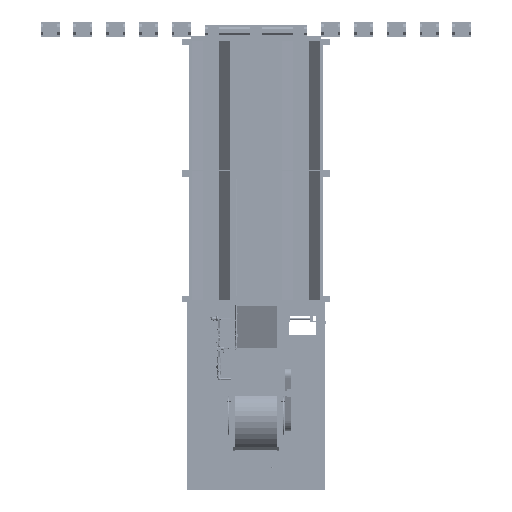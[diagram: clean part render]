
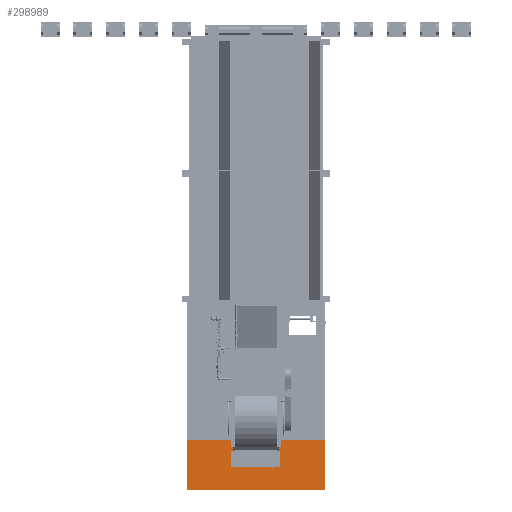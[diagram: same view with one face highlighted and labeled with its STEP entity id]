
A CAD part, front view. The second image highlights one B-rep face of the part: STEP entity #298989.
In plain terms, the highlighted planar face has unit normal (0, -1, 0) as drawn and (1, 0, 0) by its records, which use the part's own axes.
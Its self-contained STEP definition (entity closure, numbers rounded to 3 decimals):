
#59381=FACE_OUTER_BOUND('',#77362,.T.);
#77362=EDGE_LOOP('',(#270588,#270589,#270590,#270591));
#98842=LINE('',#727486,#121472);
#98878=LINE('',#727554,#121508);
#98890=LINE('',#727577,#121520);
#98891=LINE('',#727578,#121521);
#121472=VECTOR('',#396935,0.394);
#121508=VECTOR('',#396989,0.394);
#121520=VECTOR('',#397013,0.394);
#121521=VECTOR('',#397014,0.394);
#148698=VERTEX_POINT('',#727483);
#148699=VERTEX_POINT('',#727485);
#148722=VERTEX_POINT('',#727552);
#148727=VERTEX_POINT('',#727576);
#189714=EDGE_CURVE('',#148698,#148699,#98842,.T.);
#189750=EDGE_CURVE('',#148698,#148722,#98878,.T.);
#189762=EDGE_CURVE('',#148722,#148727,#98890,.T.);
#189763=EDGE_CURVE('',#148727,#148699,#98891,.T.);
#270588=ORIENTED_EDGE('',*,*,#189750,.T.);
#270589=ORIENTED_EDGE('',*,*,#189762,.T.);
#270590=ORIENTED_EDGE('',*,*,#189763,.T.);
#270591=ORIENTED_EDGE('',*,*,#189714,.F.);
#283033=PLANE('',#326039);
#298989=ADVANCED_FACE('',(#59381),#283033,.T.);
#326039=AXIS2_PLACEMENT_3D('',#727575,#397011,#397012);
#396935=DIRECTION('',(0.,0.,1.));
#396989=DIRECTION('',(0.,1.,0.));
#397011=DIRECTION('center_axis',(1.,0.,0.));
#397012=DIRECTION('ref_axis',(0.,0.,-1.));
#397013=DIRECTION('',(0.,0.,1.));
#397014=DIRECTION('',(0.,-1.,0.));
#727483=CARTESIAN_POINT('',(-0.125,-30.,101.063));
#727485=CARTESIAN_POINT('',(-0.125,-30.,137.75));
#727486=CARTESIAN_POINT('',(-0.125,-30.,0.));
#727552=CARTESIAN_POINT('',(-0.125,70.5,101.063));
#727554=CARTESIAN_POINT('',(-0.125,20.25,101.063));
#727575=CARTESIAN_POINT('Origin',(-0.125,70.5,0.));
#727576=CARTESIAN_POINT('',(-0.125,70.5,137.75));
#727577=CARTESIAN_POINT('',(-0.125,70.5,0.));
#727578=CARTESIAN_POINT('',(-0.125,-30.,137.75));
